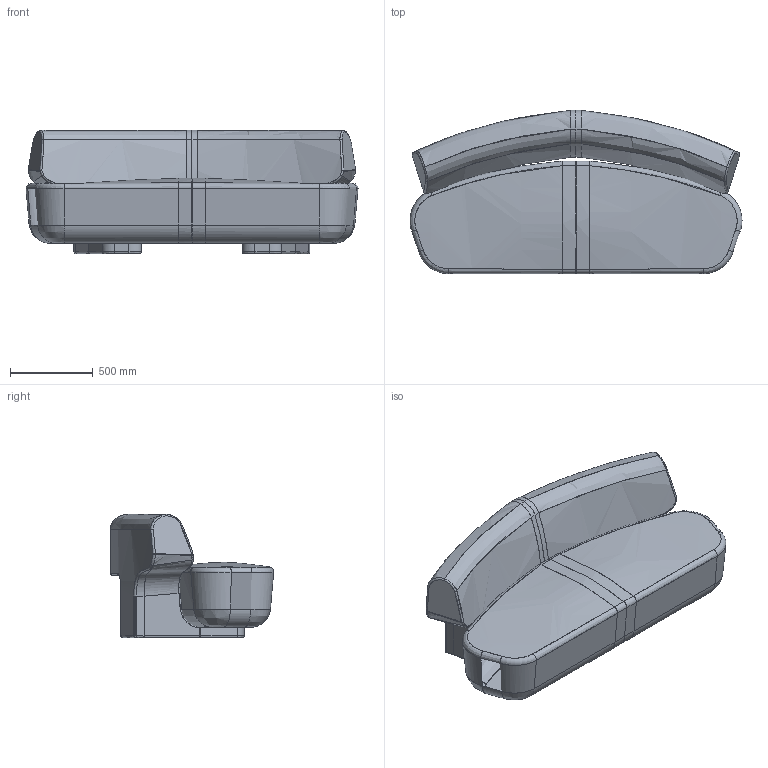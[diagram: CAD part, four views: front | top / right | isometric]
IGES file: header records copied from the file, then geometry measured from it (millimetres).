
Global section: file name: C:\Users\market02\Desktop\RYAN\3D\LITHO\FLITHCB200_Canape banquette_Armeless sofa_Litho\exportation\FLITHCB200_Canape banquette_Armeless sofa_Litho.igs; native system: Rhinoceros ( Dec 14 2021 ); preprocessor: Trout Lake IGES 012 Dec 14 2021; date: 220317.094225; units: millimetre
Bounding box: 2001.76 x 984.65 x 743.32 mm (x, y, z)
Surface area: 7181010.2 mm2 (no closed solid volume)
Topology: 0 solids, 0 shells, 202 faces, 2813 edges, 2811 vertices
Faces by surface type: bspline 202
